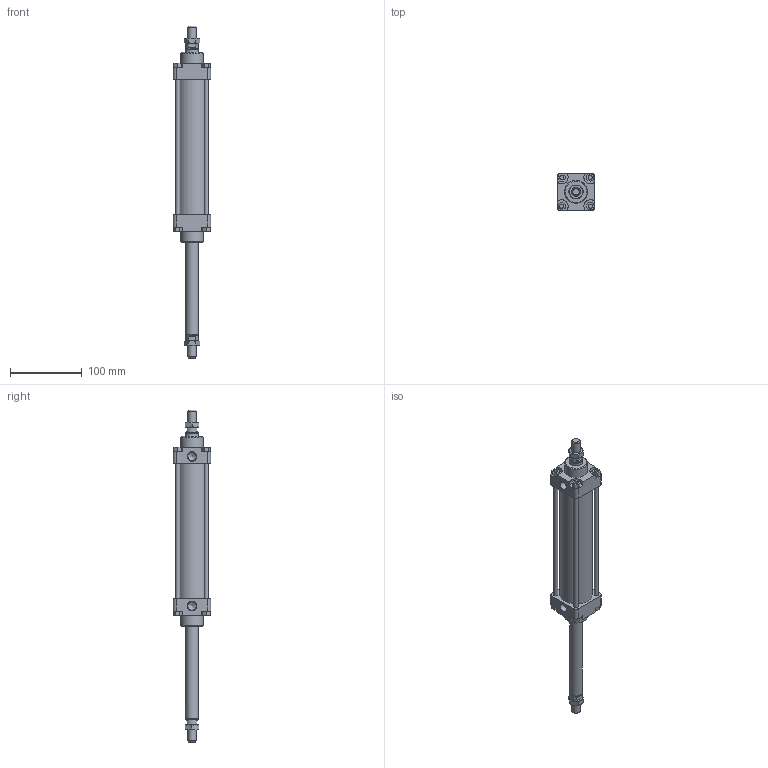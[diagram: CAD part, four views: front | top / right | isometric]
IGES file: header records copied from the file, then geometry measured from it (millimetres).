
Global section: file name: 130#_040_0125_02A; native system: Autodesk Inventor 2014; preprocessor: unknown; author: A. Manieri; date: 20161123.143736; units: millimetre
Bounding box: 52 x 52 x 464 mm (x, y, z)
Volume: 376908.9 mm3; surface area: 131939.5 mm2
Topology: 10 solids, 10 shells, 187 faces, 467 edges, 314 vertices
Faces by surface type: bspline 187
